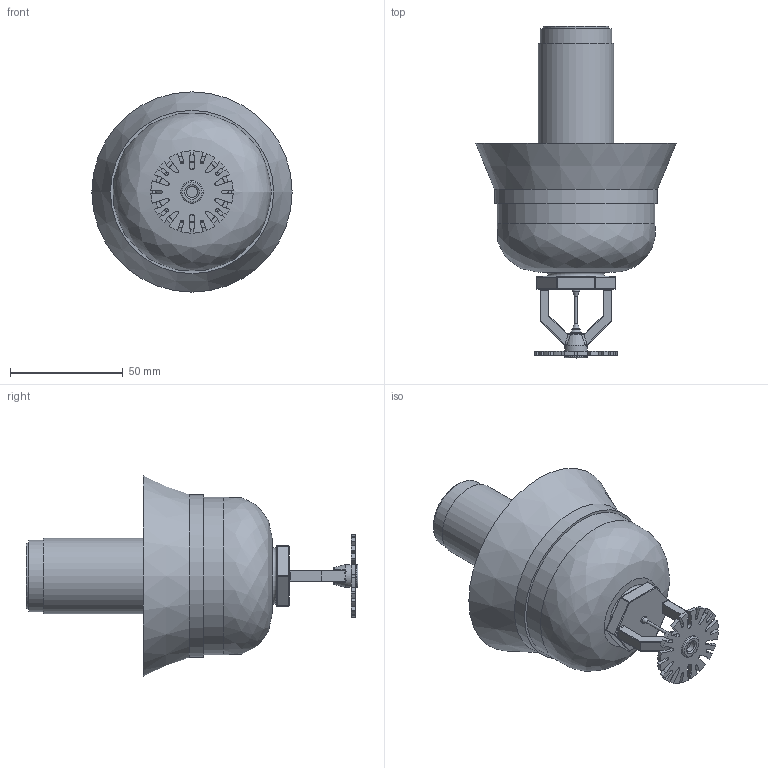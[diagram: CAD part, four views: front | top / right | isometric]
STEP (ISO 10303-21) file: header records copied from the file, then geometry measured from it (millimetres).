
FILE_DESCRIPTION(/* description */ ('VIC SPRINKLER V3608 K8.0 DRY PENDENT QUICK RESPONSE (BSPT)','CAx-IF Rec.Pracs.---Representation and Presentation of Product Manufacturing Information (PMI)---4.0---2014-10-13'),/* implementation_level */ '2;1');
FILE_NAME(/* name */ 'C:\Users\kkamble\AppData\Roaming\Autodesk\ApplicationPlugins\Victaulic.Temp\A771\Victaulic_FP-Sprinkler_V3608_DRY_QR_Pendent (BSPT)_EXTENDED_1 (25).stp',/* time_stamp */ '2021-03-29T16:29:25+06:00',/* author */ ('kkamble'),/* organization */ ('Victaulic'),/* preprocessor_version */ 'ST-DEVELOPER v17.2',/* originating_system */ 'Autodesk Inventor 2019',/* authorisation */ '');
FILE_SCHEMA (('AP242_MANAGED_MODEL_BASED_3D_ENGINEERING_MIM_LF { 1 0 10303 442 1 1 4 }'));
Length unit declared in the file: inch
Products named in the file (2): V3608_Exteded-01.0; V3608-01.0
Assembly tree (1 placements, depth 2):
  V3608_Exteded-01.0
    V3608-01.0
Bounding box: 88.9 x 147.32 x 88.9 mm (x, y, z)
Volume: 63364.7 mm3; surface area: 56602.2 mm2
Topology: 1 solids, 1 shells, 309 faces, 813 edges, 512 vertices
Faces by surface type: plane 104, cylinder 100, bspline 71, torus 15, sphere 12, cone 7
Full cylindrical faces by diameter (mm): 1.27 x1, 5.08 x2, 10.16 x2, 20.93 x1, 26.645 x1, 29.185 x1, 31.725 x1, 33.401 x1, 67.31 x1, 69.85 x2, 72.39 x1
Entity records: 11288 total; most frequent: CARTESIAN_POINT 3439, ORIENTED_EDGE 1618, DIRECTION 1507, EDGE_CURVE 809, AXIS2_PLACEMENT_3D 577, VERTEX_POINT 512, LINE 353, VECTOR 353
